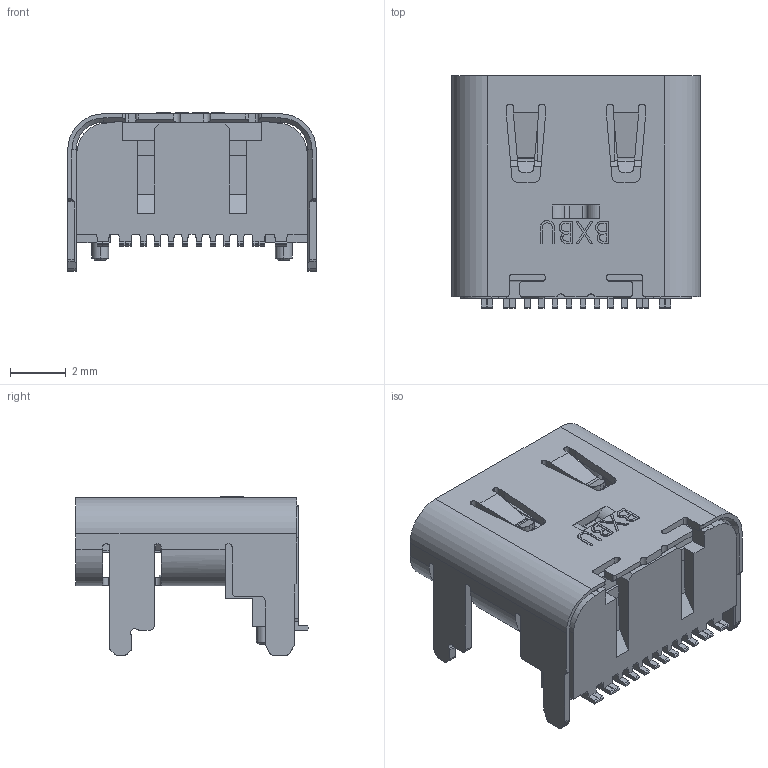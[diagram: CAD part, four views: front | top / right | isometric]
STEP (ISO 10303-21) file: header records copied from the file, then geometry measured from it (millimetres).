
FILE_DESCRIPTION (( 'STEP AP214' ), '1' );
FILE_NAME ('TYPE C 16PIN ____1.6______.STEP', '2026-05-21T02:54:36', ( '' ), ( '' ), 'SwSTEP 2.0', 'SolidWorks 2024', '' );
FILE_SCHEMA (( 'AUTOMOTIVE_DESIGN' ));
Length unit declared in the file: millimetre
Products named in the file (1): TYPE C 16PIN ____1.6______
Bounding box: 8.94 x 8.36 x 5.69 mm (x, y, z)
Volume: 155.3 mm3; surface area: 565.8 mm2
Topology: 1 solids, 1 shells, 889 faces, 2606 edges, 1716 vertices
Faces by surface type: plane 597, cylinder 233, bspline 33, cone 14, torus 12
Entity records: 30808 total; most frequent: CARTESIAN_POINT 7180, ORIENTED_EDGE 5212, DIRECTION 4628, EDGE_CURVE 2606, VECTOR 2008, LINE 2008, VERTEX_POINT 1716, AXIS2_PLACEMENT_3D 1310
